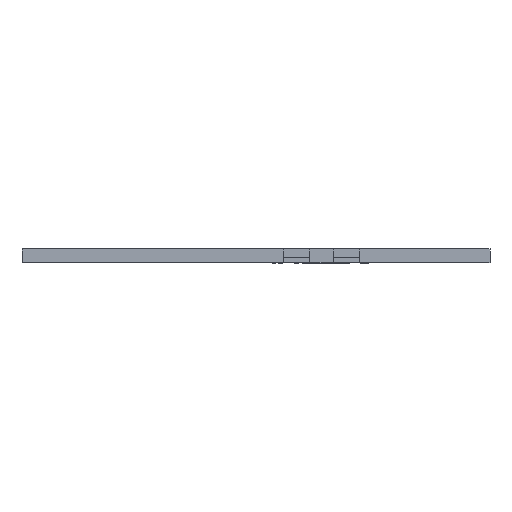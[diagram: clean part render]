
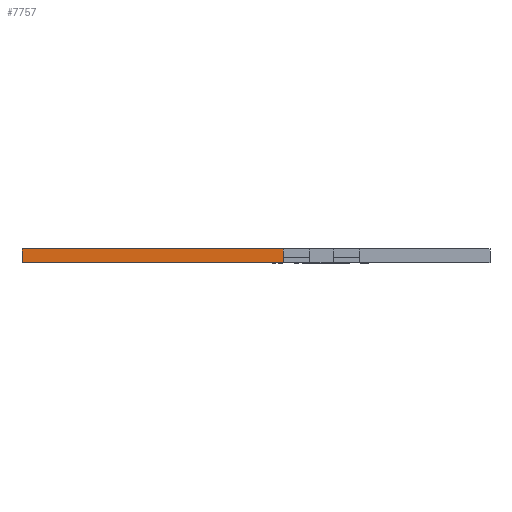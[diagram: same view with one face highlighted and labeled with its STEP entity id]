
A CAD part, front view. The second image highlights one B-rep face of the part: STEP entity #7757.
In plain terms, the highlighted planar face has unit normal (0, -1, 0).
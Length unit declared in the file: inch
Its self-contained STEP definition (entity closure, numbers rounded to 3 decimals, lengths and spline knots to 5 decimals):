
#4495=FACE_OUTER_BOUND($,#5066,.T.);
#5066=EDGE_LOOP($,(#8091,#8092,#8093,#8094));
#5637=AXIS2_PLACEMENT_3D($,#16073,#14418,$);
#7699=PLANE($,#5637);
#7757=ADVANCED_FACE($,(#4495),#7699,.T.);
#8091=ORIENTED_EDGE($,*,*,#9954,.T.);
#8092=ORIENTED_EDGE($,*,*,#9979,.T.);
#8093=ORIENTED_EDGE($,*,*,#9966,.F.);
#8094=ORIENTED_EDGE($,*,*,#9978,.F.);
#9954=EDGE_CURVE($,#12377,#12378,#11774,.T.);
#9966=EDGE_CURVE($,#12390,#12391,#11786,.T.);
#9978=EDGE_CURVE($,#12377,#12390,#11798,.T.);
#9979=EDGE_CURVE($,#12378,#12391,#11799,.T.);
#11171=VECTOR($,#14381,1.675);
#11183=VECTOR($,#14393,1.675);
#11195=VECTOR($,#14405,0.089);
#11196=VECTOR($,#14406,0.089);
#11774=LINE($,#16073,#11171);
#11786=LINE($,#16086,#11183);
#11798=LINE($,#16073,#11195);
#11799=LINE($,#16074,#11196);
#12377=VERTEX_POINT($,#16073);
#12378=VERTEX_POINT($,#16074);
#12390=VERTEX_POINT($,#16086);
#12391=VERTEX_POINT($,#16087);
#14381=DIRECTION($,(-1.,0.,0.));
#14393=DIRECTION($,(-1.,0.,0.));
#14405=DIRECTION($,(0.,0.,-1.));
#14406=DIRECTION($,(0.,0.,-1.));
#14418=DIRECTION($,(0.,-1.,0.));
#16073=CARTESIAN_POINT('',(1.675,0.,0.));
#16074=CARTESIAN_POINT('',(0.,0.,0.));
#16086=CARTESIAN_POINT('',(1.675,0.,-0.089));
#16087=CARTESIAN_POINT('',(0.,0.,-0.089));
